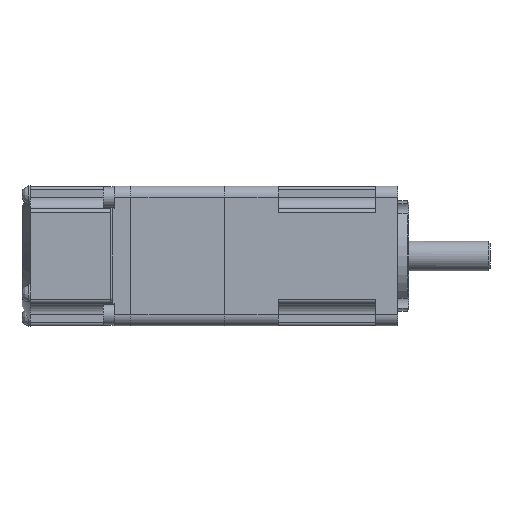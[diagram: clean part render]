
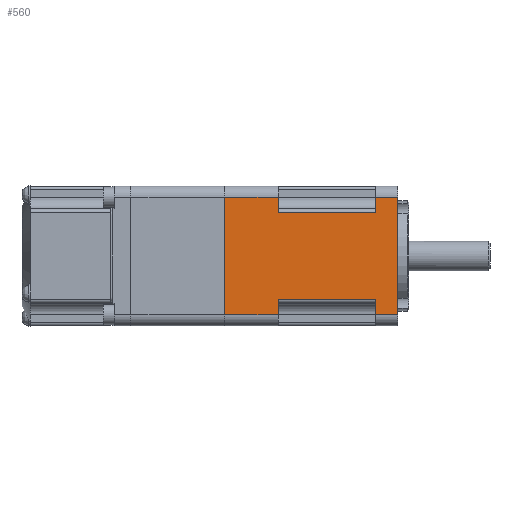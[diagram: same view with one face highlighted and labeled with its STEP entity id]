
A CAD part, front view. The second image highlights one B-rep face of the part: STEP entity #560.
In plain terms, the highlighted planar face has unit normal (0, -1, 0).
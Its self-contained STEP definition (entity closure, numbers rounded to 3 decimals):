
#560 = ADVANCED_FACE( '', ( #1552 ), #1553, .F. );
#1552 = FACE_OUTER_BOUND( '', #3371, .T. );
#1553 = PLANE( '', #3372 );
#3371 = EDGE_LOOP( '', ( #6179, #6180, #6181, #6182, #6183, #6184, #6185, #6186, #6187, #6188, #6189, #6190 ) );
#3372 = AXIS2_PLACEMENT_3D( '', #6191, #6192, #6193 );
#6179 = ORIENTED_EDGE( '', *, *, #11239, .F. );
#6180 = ORIENTED_EDGE( '', *, *, #10985, .T. );
#6181 = ORIENTED_EDGE( '', *, *, #11271, .T. );
#6182 = ORIENTED_EDGE( '', *, *, #11255, .F. );
#6183 = ORIENTED_EDGE( '', *, *, #11269, .T. );
#6184 = ORIENTED_EDGE( '', *, *, #11261, .T. );
#6185 = ORIENTED_EDGE( '', *, *, #11283, .F. );
#6186 = ORIENTED_EDGE( '', *, *, #11183, .F. );
#6187 = ORIENTED_EDGE( '', *, *, #11260, .T. );
#6188 = ORIENTED_EDGE( '', *, *, #11258, .T. );
#6189 = ORIENTED_EDGE( '', *, *, #11249, .F. );
#6190 = ORIENTED_EDGE( '', *, *, #11242, .F. );
#6191 = CARTESIAN_POINT( '', ( 6., -19., 16. ) );
#6192 = DIRECTION( '', ( 0., 1., 0. ) );
#6193 = DIRECTION( '', ( 0., 0., 1. ) );
#10985 = EDGE_CURVE( '', #12961, #12959, #12962, .T. );
#11183 = EDGE_CURVE( '', #13299, #13301, #13302, .T. );
#11239 = EDGE_CURVE( '', #12961, #13398, #13399, .T. );
#11242 = EDGE_CURVE( '', #13398, #13401, #13403, .T. );
#11249 = EDGE_CURVE( '', #13401, #13413, #13415, .T. );
#11255 = EDGE_CURVE( '', #13423, #13425, #13426, .T. );
#11258 = EDGE_CURVE( '', #13430, #13413, #13431, .T. );
#11260 = EDGE_CURVE( '', #13299, #13430, #13433, .T. );
#11261 = EDGE_CURVE( '', #13434, #13435, #13436, .T. );
#11269 = EDGE_CURVE( '', #13423, #13434, #13448, .T. );
#11271 = EDGE_CURVE( '', #12959, #13425, #13450, .T. );
#11283 = EDGE_CURVE( '', #13301, #13435, #13468, .T. );
#12959 = VERTEX_POINT( '', #16228 );
#12961 = VERTEX_POINT( '', #16230 );
#12962 = LINE( '', #16231, #16232 );
#13299 = VERTEX_POINT( '', #16691 );
#13301 = VERTEX_POINT( '', #16693 );
#13302 = LINE( '', #16694, #16695 );
#13398 = VERTEX_POINT( '', #16821 );
#13399 = LINE( '', #16822, #16823 );
#13401 = VERTEX_POINT( '', #16825 );
#13403 = LINE( '', #16827, #16828 );
#13413 = VERTEX_POINT( '', #16841 );
#13415 = LINE( '', #16843, #16844 );
#13423 = VERTEX_POINT( '', #16853 );
#13425 = VERTEX_POINT( '', #16855 );
#13426 = LINE( '', #16856, #16857 );
#13430 = VERTEX_POINT( '', #16862 );
#13431 = LINE( '', #16863, #16864 );
#13433 = LINE( '', #16866, #16867 );
#13434 = VERTEX_POINT( '', #16868 );
#13435 = VERTEX_POINT( '', #16869 );
#13436 = LINE( '', #16870, #16871 );
#13448 = LINE( '', #16885, #16886 );
#13450 = LINE( '', #16889, #16890 );
#13468 = LINE( '', #16915, #16916 );
#16228 = CARTESIAN_POINT( '', ( -41., -19., -16. ) );
#16230 = CARTESIAN_POINT( '', ( -41., -19., 16. ) );
#16231 = CARTESIAN_POINT( '', ( -41., -19., 16. ) );
#16232 = VECTOR( '', #20763, 1000. );
#16691 = CARTESIAN_POINT( '', ( 6., -19., 16. ) );
#16693 = CARTESIAN_POINT( '', ( 6., -19., -16. ) );
#16694 = CARTESIAN_POINT( '', ( 6., -19., 16. ) );
#16695 = VECTOR( '', #21111, 1000. );
#16821 = CARTESIAN_POINT( '', ( -26.5, -19., 16. ) );
#16822 = CARTESIAN_POINT( '', ( -71.5, -19., 16. ) );
#16823 = VECTOR( '', #21214, 1000. );
#16825 = CARTESIAN_POINT( '', ( -26.5, -19., 11.85 ) );
#16827 = CARTESIAN_POINT( '', ( -26.5, -19., 16. ) );
#16828 = VECTOR( '', #21221, 1000. );
#16841 = CARTESIAN_POINT( '', ( 0., -19., 11.85 ) );
#16843 = CARTESIAN_POINT( '', ( -26.5, -19., 11.85 ) );
#16844 = VECTOR( '', #21234, 1000. );
#16853 = CARTESIAN_POINT( '', ( -26.5, -19., -11.85 ) );
#16855 = CARTESIAN_POINT( '', ( -26.5, -19., -16. ) );
#16856 = CARTESIAN_POINT( '', ( -26.5, -19., 16. ) );
#16857 = VECTOR( '', #21248, 1000. );
#16862 = CARTESIAN_POINT( '', ( 0., -19., 16. ) );
#16863 = CARTESIAN_POINT( '', ( 0., -19., 16. ) );
#16864 = VECTOR( '', #21253, 1000. );
#16866 = CARTESIAN_POINT( '', ( 6., -19., 16. ) );
#16867 = VECTOR( '', #21257, 1000. );
#16868 = CARTESIAN_POINT( '', ( 0., -19., -11.85 ) );
#16869 = CARTESIAN_POINT( '', ( 0., -19., -16. ) );
#16870 = CARTESIAN_POINT( '', ( 0., -19., 16. ) );
#16871 = VECTOR( '', #21258, 1000. );
#16885 = CARTESIAN_POINT( '', ( -26.5, -19., -11.85 ) );
#16886 = VECTOR( '', #21276, 1000. );
#16889 = CARTESIAN_POINT( '', ( -71.5, -19., -16. ) );
#16890 = VECTOR( '', #21278, 1000. );
#16915 = CARTESIAN_POINT( '', ( 6., -19., -16. ) );
#16916 = VECTOR( '', #21298, 1000. );
#20763 = DIRECTION( '', ( 0., 0., -1. ) );
#21111 = DIRECTION( '', ( 0., 0., -1. ) );
#21214 = DIRECTION( '', ( 1., 0., 0. ) );
#21221 = DIRECTION( '', ( 0., 0., -1. ) );
#21234 = DIRECTION( '', ( 1., 0., 0. ) );
#21248 = DIRECTION( '', ( 0., 0., -1. ) );
#21253 = DIRECTION( '', ( 0., 0., -1. ) );
#21257 = DIRECTION( '', ( -1., 0., 0. ) );
#21258 = DIRECTION( '', ( 0., 0., -1. ) );
#21276 = DIRECTION( '', ( 1., 0., 0. ) );
#21278 = DIRECTION( '', ( 1., 0., 0. ) );
#21298 = DIRECTION( '', ( -1., 0., 0. ) );
